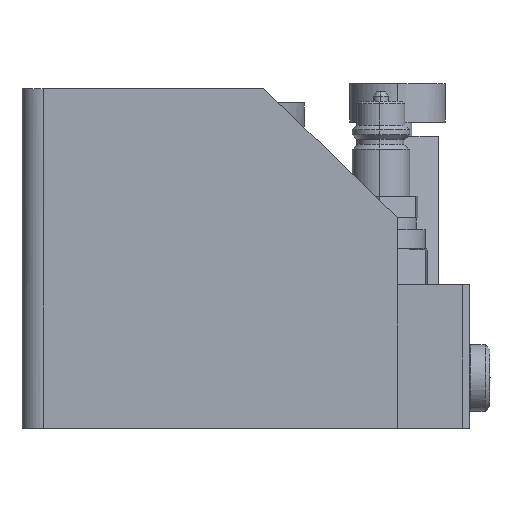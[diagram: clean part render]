
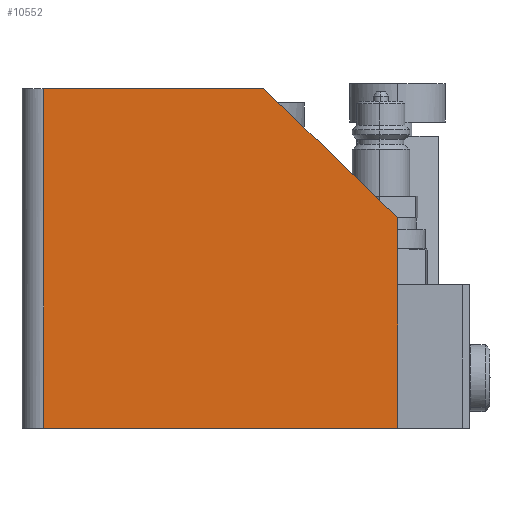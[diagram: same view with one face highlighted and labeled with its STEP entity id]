
A CAD part, left-side view. The second image highlights one B-rep face of the part: STEP entity #10552.
In plain terms, the highlighted planar face has unit normal (-1, 0, 0) as drawn and (0, -0.999, -0.04) by its records, which use the part's own axes.
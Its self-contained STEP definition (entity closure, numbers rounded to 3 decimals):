
#9723=CARTESIAN_POINT('Vertex',(45.,24.421,52.258)) ;
#9728=CARTESIAN_POINT('Line Origine',(31.5,24.98,38.269)) ;
#9732=CARTESIAN_POINT('Vertex',(18.,25.54,24.281)) ;
#9819=CARTESIAN_POINT('Vertex',(45.,22.583,98.222)) ;
#9822=CARTESIAN_POINT('Line Origine',(45.,23.502,75.24)) ;
#10502=CARTESIAN_POINT('Line Origine',(-4.,25.54,24.281)) ;
#10506=CARTESIAN_POINT('Vertex',(-26.,25.54,24.281)) ;
#10528=CARTESIAN_POINT('Axis2P3D Location',(45.,25.54,24.281)) ;
#10533=CARTESIAN_POINT('Line Origine',(9.5,22.583,98.222)) ;
#10537=CARTESIAN_POINT('Vertex',(-26.,22.583,98.222)) ;
#10540=CARTESIAN_POINT('Line Origine',(-26.,24.061,61.251)) ;
#9729=DIRECTION('Vector Direction',(-0.694,0.029,-0.719)) ;
#9823=DIRECTION('Vector Direction',(0.,-0.04,0.999)) ;
#10503=DIRECTION('Vector Direction',(-1.,0.,0.)) ;
#10529=DIRECTION('Axis2P3D Direction',(0.,-0.999,-0.04)) ;
#10530=DIRECTION('Axis2P3D XDirection',(0.,-0.04,0.999)) ;
#10534=DIRECTION('Vector Direction',(-1.,0.,0.)) ;
#10541=DIRECTION('Vector Direction',(0.,-0.04,0.999)) ;
#10531=AXIS2_PLACEMENT_3D('Plane Axis2P3D',#10528,#10529,#10530) ;
#10546=ORIENTED_EDGE('',*,*,#9826,.F.) ;
#10547=ORIENTED_EDGE('',*,*,#10539,.T.) ;
#10548=ORIENTED_EDGE('',*,*,#10544,.T.) ;
#10549=ORIENTED_EDGE('',*,*,#10508,.F.) ;
#10550=ORIENTED_EDGE('',*,*,#9734,.F.) ;
#9730=VECTOR('Line Direction',#9729,1.) ;
#9824=VECTOR('Line Direction',#9823,1.) ;
#10504=VECTOR('Line Direction',#10503,1.) ;
#10535=VECTOR('Line Direction',#10534,1.) ;
#10542=VECTOR('Line Direction',#10541,1.) ;
#10552=ADVANCED_FACE('',(#10551),#10532,.T.) ;
#9734=EDGE_CURVE('',#9724,#9733,#9731,.T.) ;
#9826=EDGE_CURVE('',#9820,#9724,#9825,.F.) ;
#10508=EDGE_CURVE('',#9733,#10507,#10505,.T.) ;
#10539=EDGE_CURVE('',#9820,#10538,#10536,.T.) ;
#10544=EDGE_CURVE('',#10538,#10507,#10543,.F.) ;
#10545=EDGE_LOOP('',(#10546,#10547,#10548,#10549,#10550)) ;
#10551=FACE_OUTER_BOUND('',#10545,.T.) ;
#9731=LINE('Line',#9728,#9730) ;
#9825=LINE('Line',#9822,#9824) ;
#10505=LINE('Line',#10502,#10504) ;
#10536=LINE('Line',#10533,#10535) ;
#10543=LINE('Line',#10540,#10542) ;
#10532=PLANE('Plane',#10531) ;
#9724=VERTEX_POINT('',#9723) ;
#9733=VERTEX_POINT('',#9732) ;
#9820=VERTEX_POINT('',#9819) ;
#10507=VERTEX_POINT('',#10506) ;
#10538=VERTEX_POINT('',#10537) ;
